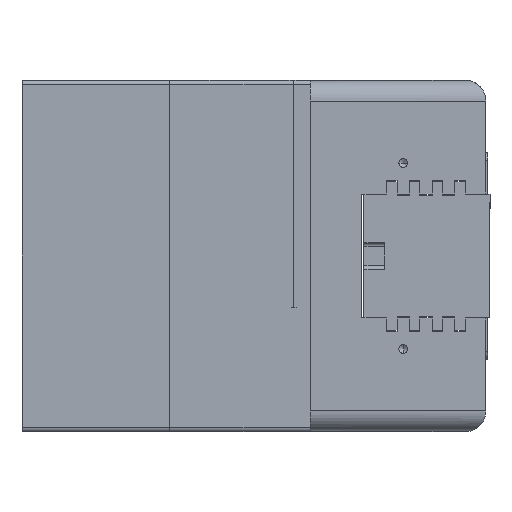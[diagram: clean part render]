
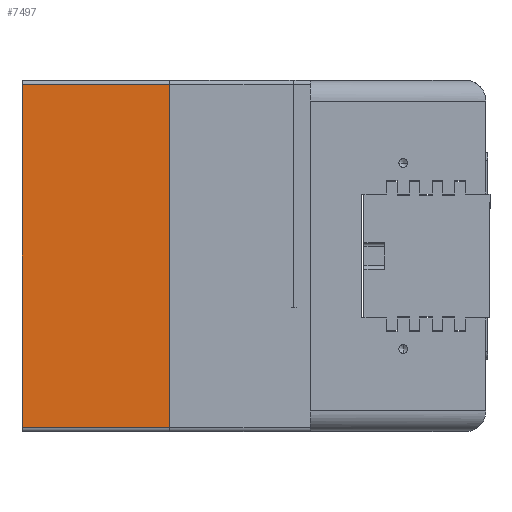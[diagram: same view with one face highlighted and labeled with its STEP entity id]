
A CAD part, left-side view. The second image highlights one B-rep face of the part: STEP entity #7497.
In plain terms, the highlighted planar face has unit normal (-1, 0, 0).
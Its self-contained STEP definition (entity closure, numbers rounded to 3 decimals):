
#573 = FACE_OUTER_BOUND ( 'NONE', #10429, .T. ) ;
#764 = ORIENTED_EDGE ( 'NONE', *, *, #5871, .T. ) ;
#1484 = VECTOR ( 'NONE', #3423, 1000. ) ;
#1746 = VERTEX_POINT ( 'NONE', #4033 ) ;
#1748 = LINE ( 'NONE', #7422, #13809 ) ;
#2192 = VECTOR ( 'NONE', #14113, 1000. ) ;
#2385 = VERTEX_POINT ( 'NONE', #3120 ) ;
#3074 = LINE ( 'NONE', #14257, #2192 ) ;
#3120 = CARTESIAN_POINT ( 'NONE',  ( -142.5, 71.5, 83. ) ) ;
#3210 = DIRECTION ( 'NONE',  ( 0., -1., 0. ) ) ;
#3380 = PLANE ( 'NONE',  #6064 ) ;
#3423 = DIRECTION ( 'NONE',  ( 0., 0., 1. ) ) ;
#3943 = LINE ( 'NONE', #10224, #1484 ) ;
#4033 = CARTESIAN_POINT ( 'NONE',  ( -142.5, 0., -83. ) ) ;
#4314 = LINE ( 'NONE', #14529, #8755 ) ;
#4352 = CARTESIAN_POINT ( 'NONE',  ( -142.5, 0., 83. ) ) ;
#4658 = VERTEX_POINT ( 'NONE', #4352 ) ;
#5054 = DIRECTION ( 'NONE',  ( 0., 1., 0. ) ) ;
#5522 = EDGE_CURVE ( 'NONE', #2385, #4658, #4314, .T. ) ;
#5871 = EDGE_CURVE ( 'NONE', #1746, #4658, #3074, .T. ) ;
#6064 = AXIS2_PLACEMENT_3D ( 'NONE', #12475, #6907, #10320 ) ;
#6248 = EDGE_CURVE ( 'NONE', #10197, #2385, #3943, .T. ) ;
#6713 = ORIENTED_EDGE ( 'NONE', *, *, #11965, .F. ) ;
#6907 = DIRECTION ( 'NONE',  ( 1., 0., 0. ) ) ;
#7422 = CARTESIAN_POINT ( 'NONE',  ( -142.5, 85., -83. ) ) ;
#7497 = ADVANCED_FACE ( 'NONE', ( #573 ), #3380, .F. ) ;
#8750 = ORIENTED_EDGE ( 'NONE', *, *, #6248, .F. ) ;
#8755 = VECTOR ( 'NONE', #3210, 1000. ) ;
#9636 = ORIENTED_EDGE ( 'NONE', *, *, #5522, .F. ) ;
#9708 = CARTESIAN_POINT ( 'NONE',  ( -142.5, 71.5, -83. ) ) ;
#10197 = VERTEX_POINT ( 'NONE', #9708 ) ;
#10224 = CARTESIAN_POINT ( 'NONE',  ( -142.5, 71.5, -85. ) ) ;
#10320 = DIRECTION ( 'NONE',  ( 0., 0., -1. ) ) ;
#10429 = EDGE_LOOP ( 'NONE', ( #6713, #764, #9636, #8750 ) ) ;
#11965 = EDGE_CURVE ( 'NONE', #1746, #10197, #1748, .T. ) ;
#12475 = CARTESIAN_POINT ( 'NONE',  ( -142.5, 85., -85. ) ) ;
#13809 = VECTOR ( 'NONE', #5054, 1000. ) ;
#14113 = DIRECTION ( 'NONE',  ( 0., 0., 1. ) ) ;
#14257 = CARTESIAN_POINT ( 'NONE',  ( -142.5, 0., 0. ) ) ;
#14529 = CARTESIAN_POINT ( 'NONE',  ( -142.5, 85., 83. ) ) ;
